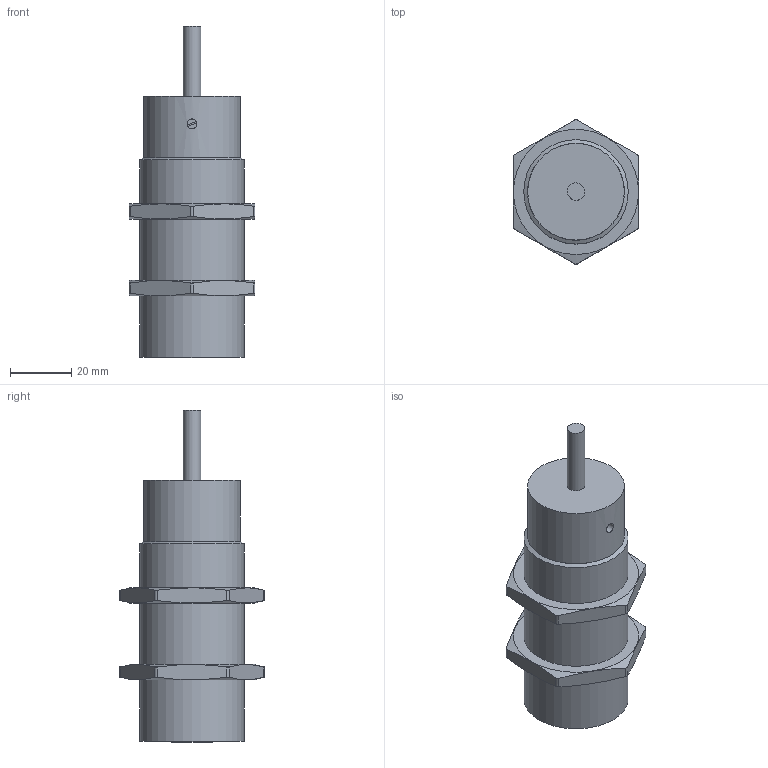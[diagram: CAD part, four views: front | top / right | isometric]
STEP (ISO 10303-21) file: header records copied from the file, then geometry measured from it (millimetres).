
FILE_DESCRIPTION((''),'2;1');
FILE_NAME('Q:\Konstruktion\E-Mail-Zeichnungen\STEP\KL-M34-A2.0_0085_01.stp','2012-11-22T09:32:14',('TK-02'),(''),'Autodesk Inventor 2013','Autodesk Inventor 2013','');
FILE_SCHEMA(('AUTOMOTIVE_DESIGN { 1 0 10303 214 1 1 1 1 }'));
Length unit declared in the file: millimetre
Products named in the file (1): Bauteil2
Bounding box: 41 x 47.03 x 108.16 mm (x, y, z)
Volume: 80505.1 mm3; surface area: 13545.8 mm2
Topology: 1 solids, 1 shells, 49 faces, 118 edges, 79 vertices
Faces by surface type: plane 25, cylinder 18, cone 5, sphere 1
Full cylindrical faces by diameter (mm): 3.242 x1, 5.7 x1, 31.5 x1, 34 x3
Entity records: 1605 total; most frequent: CARTESIAN_POINT 525, ORIENTED_EDGE 204, DIRECTION 172, EDGE_CURVE 102, VERTEX_POINT 74, AXIS2_PLACEMENT_3D 70, EDGE_LOOP 68, STYLED_ITEM 50
